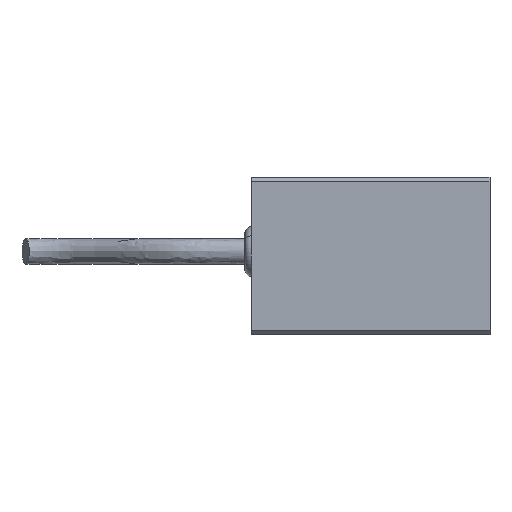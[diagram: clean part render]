
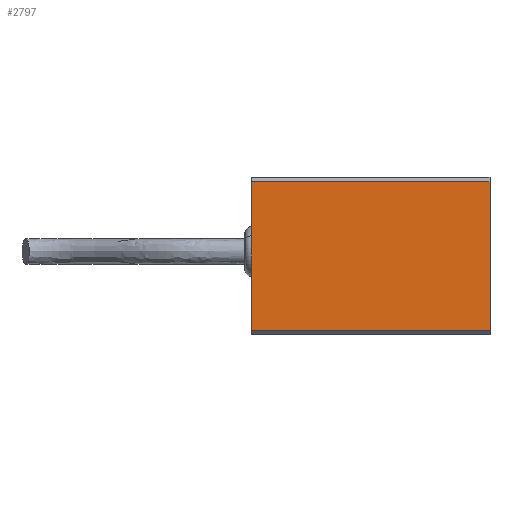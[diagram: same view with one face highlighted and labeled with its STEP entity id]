
A CAD part, front view. The second image highlights one B-rep face of the part: STEP entity #2797.
In plain terms, the highlighted planar face has unit normal (0, -1, 0).
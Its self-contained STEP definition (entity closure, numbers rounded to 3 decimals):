
#160 = LINE ( 'NONE', #3663, #2420 ) ;
#497 = EDGE_CURVE ( 'NONE', #3453, #4003, #1137, .T. ) ;
#545 = DIRECTION ( 'NONE',  ( 0., 0., -1. ) ) ;
#745 = DIRECTION ( 'NONE',  ( 0., 0., 1. ) ) ;
#754 = DIRECTION ( 'NONE',  ( 0., 1., 0. ) ) ;
#800 = ORIENTED_EDGE ( 'NONE', *, *, #497, .T. ) ;
#835 = CARTESIAN_POINT ( 'NONE',  ( 53., -17.5, 17.5 ) ) ;
#1017 = DIRECTION ( 'NONE',  ( -1., 0., 0. ) ) ;
#1078 = CARTESIAN_POINT ( 'NONE',  ( 53., -17.5, 16.5 ) ) ;
#1137 = LINE ( 'NONE', #4184, #6001 ) ;
#1145 = PLANE ( 'NONE',  #4595 ) ;
#1200 = LINE ( 'NONE', #1078, #2253 ) ;
#1211 = EDGE_CURVE ( 'NONE', #4003, #3848, #3050, .T. ) ;
#1607 = VERTEX_POINT ( 'NONE', #5741 ) ;
#1882 = EDGE_CURVE ( 'NONE', #1607, #3848, #160, .T. ) ;
#2253 = VECTOR ( 'NONE', #1017, 1000. ) ;
#2420 = VECTOR ( 'NONE', #3486, 1000. ) ;
#2612 = CARTESIAN_POINT ( 'NONE',  ( 0., -17.5, -16.5 ) ) ;
#2769 = EDGE_CURVE ( 'NONE', #1607, #3453, #1200, .T. ) ;
#2797 = ADVANCED_FACE ( 'NONE', ( #3535 ), #1145, .F. ) ;
#3050 = LINE ( 'NONE', #3159, #5421 ) ;
#3105 = DIRECTION ( 'NONE',  ( 1., 0., 0. ) ) ;
#3159 = CARTESIAN_POINT ( 'NONE',  ( 53., -17.5, -16.5 ) ) ;
#3219 = CARTESIAN_POINT ( 'NONE',  ( 53., -17.5, -16.5 ) ) ;
#3453 = VERTEX_POINT ( 'NONE', #4737 ) ;
#3486 = DIRECTION ( 'NONE',  ( 0., 0., -1. ) ) ;
#3535 = FACE_OUTER_BOUND ( 'NONE', #5382, .T. ) ;
#3663 = CARTESIAN_POINT ( 'NONE',  ( 53., -17.5, 17.5 ) ) ;
#3848 = VERTEX_POINT ( 'NONE', #3219 ) ;
#4003 = VERTEX_POINT ( 'NONE', #2612 ) ;
#4184 = CARTESIAN_POINT ( 'NONE',  ( 0., -17.5, 17.5 ) ) ;
#4595 = AXIS2_PLACEMENT_3D ( 'NONE', #835, #754, #745 ) ;
#4737 = CARTESIAN_POINT ( 'NONE',  ( 0., -17.5, 16.5 ) ) ;
#5382 = EDGE_LOOP ( 'NONE', ( #800, #5788, #5962, #5419 ) ) ;
#5419 = ORIENTED_EDGE ( 'NONE', *, *, #2769, .T. ) ;
#5421 = VECTOR ( 'NONE', #3105, 1000. ) ;
#5741 = CARTESIAN_POINT ( 'NONE',  ( 53., -17.5, 16.5 ) ) ;
#5788 = ORIENTED_EDGE ( 'NONE', *, *, #1211, .T. ) ;
#5962 = ORIENTED_EDGE ( 'NONE', *, *, #1882, .F. ) ;
#6001 = VECTOR ( 'NONE', #545, 1000. ) ;
